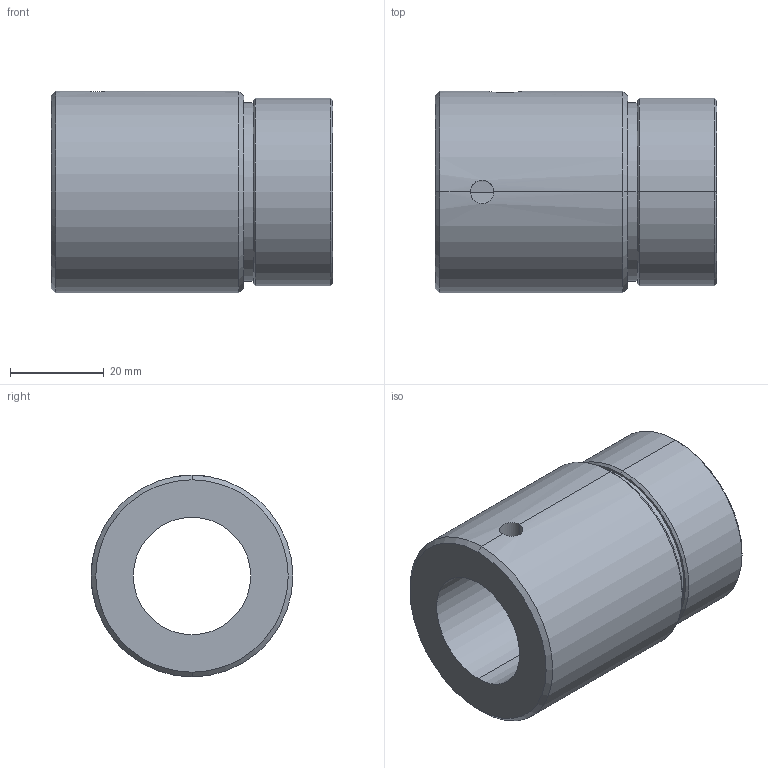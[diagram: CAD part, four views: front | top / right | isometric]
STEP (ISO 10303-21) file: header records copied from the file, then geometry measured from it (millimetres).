
FILE_DESCRIPTION (( 'STEP AP214' ), '1' );
FILE_NAME ('KGM-E-2505-RH.STEP', '2021-03-19T01:37:37', ( 'user' ), ( 'datathink' ), 'SwSTEP 2.0', 'SolidWorks 2013', '' );
FILE_SCHEMA (( 'AUTOMOTIVE_DESIGN' ));
Length unit declared in the file: millimetre
Products named in the file (1): KGM-E-2505-RH
Bounding box: 60 x 43 x 43 mm (x, y, z)
Volume: 53231.3 mm3; surface area: 14731.9 mm2
Topology: 1 solids, 1 shells, 25 faces, 54 edges, 32 vertices
Faces by surface type: cylinder 12, cone 8, plane 5
Entity records: 896 total; most frequent: CARTESIAN_POINT 300, DIRECTION 126, ORIENTED_EDGE 108, EDGE_CURVE 54, AXIS2_PLACEMENT_3D 52, VERTEX_POINT 32, EDGE_LOOP 30, CIRCLE 26
